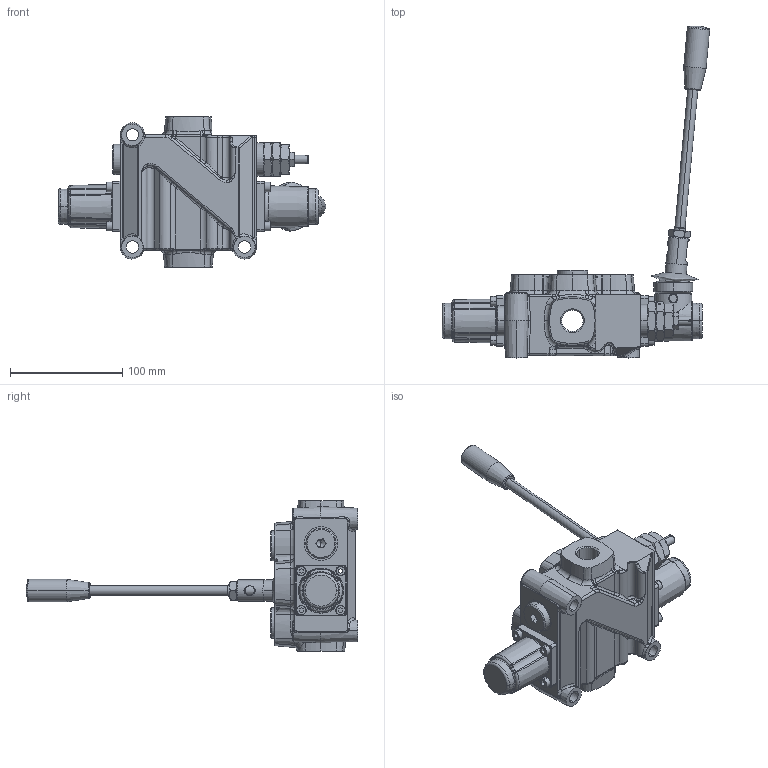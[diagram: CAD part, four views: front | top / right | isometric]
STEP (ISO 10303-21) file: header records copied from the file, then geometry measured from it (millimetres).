
FILE_DESCRIPTION (( 'STEP AP203' ), '1' );
FILE_NAME ('055010103001000.STEP', '2018-08-30T06:29:37', ( '' ), ( '' ), 'SwSTEP 2.0', 'SolidWorks 2015', '' );
FILE_SCHEMA (( 'CONFIG_CONTROL_DESIGN' ));
Length unit declared in the file: millimetre
Products named in the file (1): 055010103001000
Bounding box: 238.43 x 296.07 x 134 mm (x, y, z)
Surface area: 112594.9 mm2 (no closed solid volume)
Topology: 0 solids, 31 shells, 920 faces, 2600 edges, 1638 vertices
Faces by surface type: plane 226, bspline 209, torus 183, cone 146, cylinder 141, sphere 15
Entity records: 38767 total; most frequent: CARTESIAN_POINT 16850, ORIENTED_EDGE 4595, DIRECTION 4344, EDGE_CURVE 2574, AXIS2_PLACEMENT_3D 1787, VERTEX_POINT 1634, CIRCLE 1075, EDGE_LOOP 984
